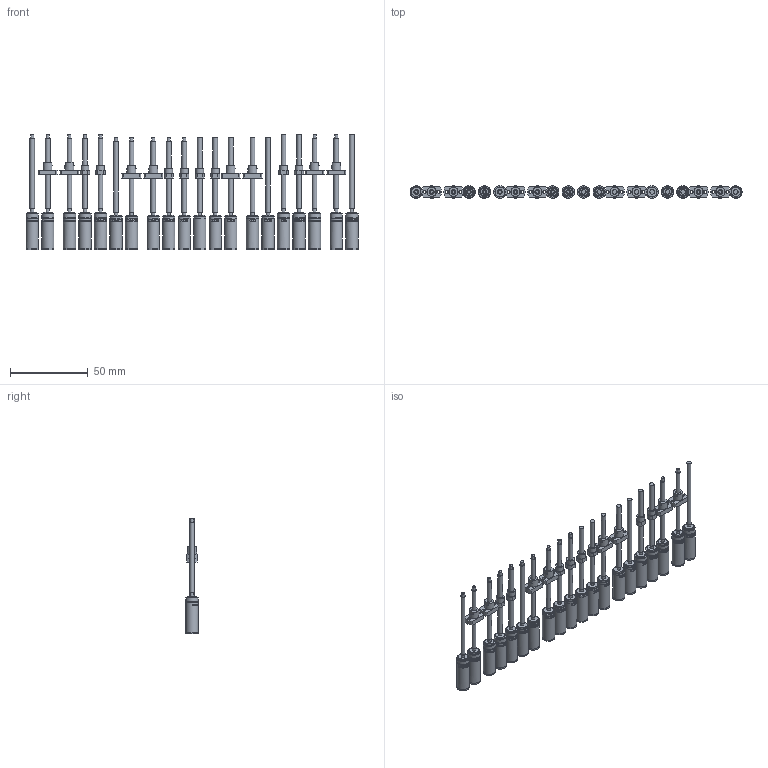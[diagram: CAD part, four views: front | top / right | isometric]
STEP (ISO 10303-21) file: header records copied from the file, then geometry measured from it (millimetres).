
FILE_DESCRIPTION(/* description */ (''),/* implementation_level */ '2;1');
FILE_NAME(/* name */ '08L-5stage_SL_standard_KWNx_KWS1_KF2.stp',/* time_stamp */ '2024-02-23T14:02:15+01:00',/* author */ ('DR. FRITZ FAULHABER GmbH & Co. KG'),/* organization */ ('DR. FRITZ FAULHABER GmbH & Co. KG'),/* preprocessor_version */ 'ST-DEVELOPER v19.3',/* originating_system */ 'SIEMENS PLM Software NX2212.4000',/* authorisation */ '');
FILE_SCHEMA (('AUTOMOTIVE_DESIGN { 1 0 10303 214 3 1 1 1 }'));
Length unit declared in the file: millimetre
Products named in the file (1): C_objects
Bounding box: 214 x 8 x 74.2 mm (x, y, z)
Volume: 31227 mm3; surface area: 27607.1 mm2
Topology: 20 solids, 20 shells, 2497 faces, 6132 edges, 4077 vertices
Faces by surface type: plane 1356, bspline 608, cylinder 493, cone 40
Full cylindrical faces by diameter (mm): 1.8 x16, 2 x12, 2.2 x20, 2.55 x20, 2.95 x20, 3 x36, 4.959 x30, 5 x8, 6 x38, 6.5 x10, 7 x10, 7.8 x10, 7.99 x10, 8 x60
Entity records: 114302 total; most frequent: CARTESIAN_POINT 50717, ORIENTED_EDGE 11440, DIRECTION 7824, EDGE_CURVE 5720, VERTEX_POINT 4008, EDGE_LOOP 3274, AXIS2_PLACEMENT_3D 3240, B_SPLINE_CURVE_WITH_KNOTS 3027
